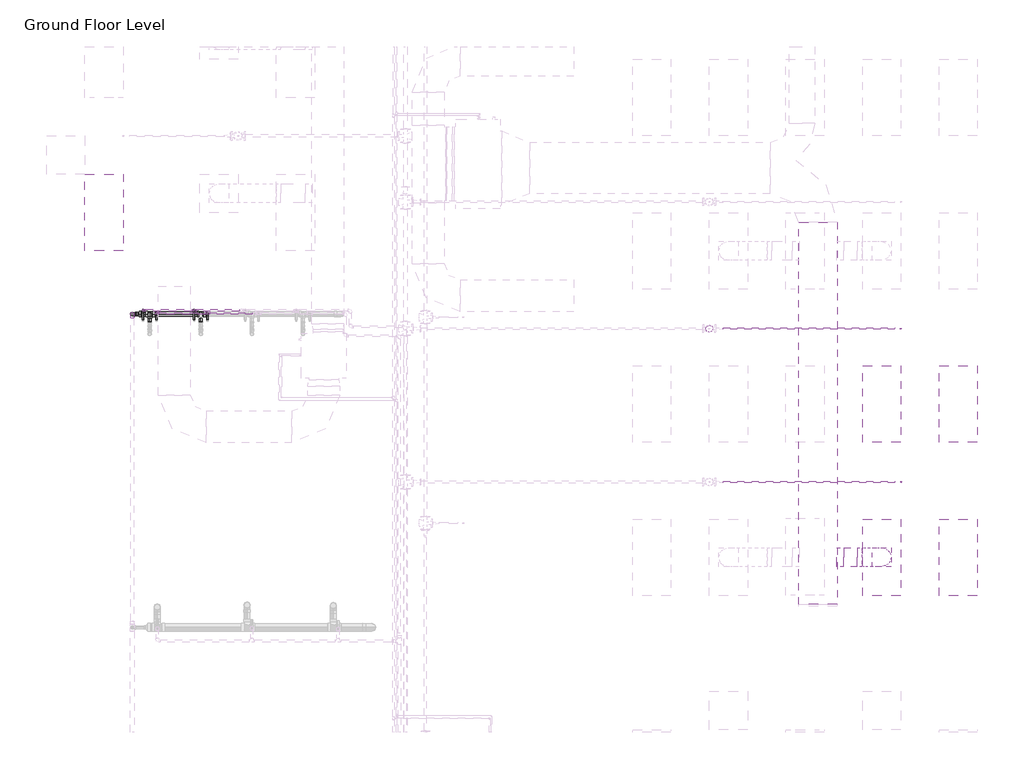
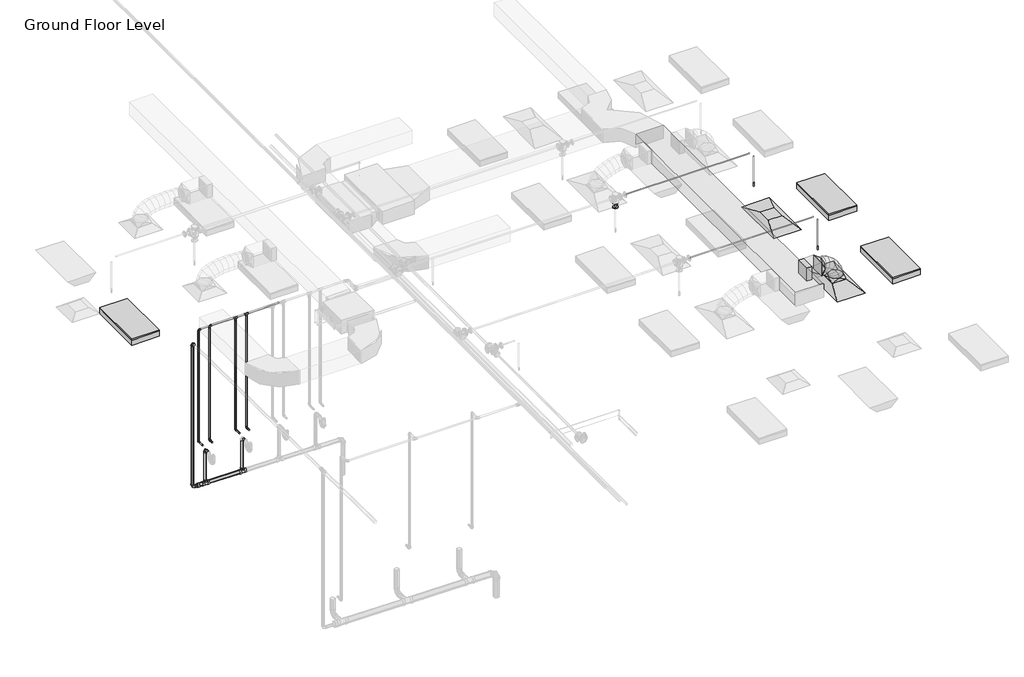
# One storey, part 23 of 74: 24 pipe segments, 15 pipe fittings, 3 duct fittings, 3 duct segments, 3 light fixtures, 2 air terminals, 2 fire suppression terminals.
"""IFC4 building model written with IfcOpenShell, lengths in millimetres."""

from ifc_helpers import new_model, si_unit, point, frame, frame_2d, origin, place, context, project, spatial, polyline, circle_curve, ellipse_curve, trimmed, segment, composite_curve, outline, extrude, transform, mapped, element, save
from ifc_brep_helpers import plane_surface, cylinder_surface, advanced_brep
from components import m_return_diffuser_1200x600_1200_x_600_face_300_x_300_d1983ef6, m_rectangular_takeoff_standard_cb0ccb98, m_rectangular_to_round_transition_angle_45_degree_641efff0, m_sprinkler_dry_pendent_hosted_15_mm_dry_pendent_9bda8e11, m_troffer_light_parabolic_rectangular1_0600x1200mm_4_lamp_86473d4a, m_bend_pvc_sch_40_dwv_standard_1e7bdcc1, m_bend_pvc_sch_40_dwv_standard_b3f66ba9, m_bend_pvc_sch_40_dwv_standard_8255d195, m_reducer_flanged_cs_class_150_standard_ccf252ad, m_reducer_pvc_sch_40_dwv_standard_391ccf0e, m_tee_reducing_sanitary_pvc_sch_40_dwv_standard_21d2848c, standard_b266ab3f, standard_636910a4

model = new_model("IFC4")

# Units and contexts
model_context = context("Model", 3, world=origin())
ifc_project = project(units=[si_unit("LENGTHUNIT", "METRE", prefix="MILLI")], contexts=[model_context])

# Site, building, storey
site = spatial("IfcSite", under=ifc_project)
building = spatial("IfcBuilding", under=site)
storey = spatial("IfcBuildingStorey", under=building, Name="Ground Floor Level", Elevation=900.0)

# Air terminals
placement = place(None, origin())
m_return_diffuser_1200x600_1200_x_600_face_300_x_300_shape = m_return_diffuser_1200x600_1200_x_600_face_300_x_300_d1983ef6(model_context)
element("IfcAirTerminal", 1, ObjectType="M_Return Diffuser 1200x600 : 1200 x 600 Face 300 x 300 Connection", at=placement, inside=storey, context=model_context, shape_type="MappedRepresentation", body=[
    mapped(m_return_diffuser_1200x600_1200_x_600_face_300_x_300_shape, transform((13143.0482736, -25264.7846466, 3650.0), x_axis=(0.0, 1.0, 0.0), y_axis=(-1.0, 0.0, 0.0), z_axis=(0.0, 0.0, 1.0))),
])
element("IfcAirTerminal", 2, ObjectType="M_Supply Diffuser 1200x600 : 1200 x 600 Face 300 x 300 Connection", at=placement, inside=storey, context=model_context, shape_type="MappedRepresentation", body=[
    mapped(m_return_diffuser_1200x600_1200_x_600_face_300_x_300_shape, transform((13143.0482736, -27664.7846466, 3650.0), x_axis=(0.0, 1.0, 0.0), y_axis=(-1.0, 0.0, 0.0), z_axis=(0.0, 0.0, 1.0))),
])

# Duct fittings
m_rectangular_takeoff_standard_shape = m_rectangular_takeoff_standard_cb0ccb98(model_context)
element("IfcDuctFitting", 3, ObjectType="M_Rectangular Takeoff : Standard", at=placement, inside=storey, context=model_context, shape_type="MappedRepresentation", body=[
    mapped(m_rectangular_takeoff_standard_shape, transform((12447.7826463, -27664.7846466, 4150.0), x_axis=(1.0, 0.0, 0.0), y_axis=(0.0, -1.0, 0.0), z_axis=(0.0, 0.0, -1.0))),
])
m_rectangular_to_round_transition_angle_45_degree_shape = m_rectangular_to_round_transition_angle_45_degree_641efff0(model_context)
element("IfcDuctFitting", 4, ObjectType="M_Rectangular to Round Transition - Angle : 45 Degree", at=placement, inside=storey, context=model_context, shape_type="MappedRepresentation", body=[
    mapped(m_rectangular_to_round_transition_angle_45_degree_shape, transform((13143.0482736, -27664.7846466, 3751.6), x_axis=(0.0, 0.0, 1.0), y_axis=(-1.0, 0.0, 0.0), z_axis=(0.0, -1.0, 0.0))),
])
element("IfcDuctFitting", 5, ObjectType="M_Rectangular to Round Transition - Angle : 45 Degree", at=placement, inside=storey, context=model_context, shape_type="MappedRepresentation", body=[
    mapped(m_rectangular_to_round_transition_angle_45_degree_shape, transform((12761.6123697, -27664.7846466, 4150.0), x_axis=(1.0, 0.0, 0.0), y_axis=(0.0, 1.0, 0.0), z_axis=(0.0, 0.0, 1.0))),
])

# Duct segments
element("IfcDuctSegment", 6, ObjectType="Flex - Round", at=placement, inside=storey, context=model_context, shape_type="AdvancedBrep", body=[
    advanced_brep(
    [(13293.0482736, -27664.7846466, 3826.6), (13143.0482736, -27814.7846466, 3826.6), (12993.0482736, -27664.7846466, 3826.6), (13143.0482736, -27514.7846466, 3826.6), (13293.0482736, -27664.7846466, 3876.0801767), (13143.0482736, -27814.7846466, 3855.2056793), (12993.0482736, -27664.7846466, 3834.331182), (13143.0482736, -27514.7846466, 3855.2056793), (13265.1827192, -27664.7846466, 3974.2594203), (13125.4356677, -27814.7846466, 3917.2605124), (12985.6886162, -27664.7846466, 3860.2616044), (13125.4356677, -27514.7846466, 3917.2605124), (13200.6413272, -27664.7846466, 4092.9659573), (13077.9530197, -27814.7846466, 4004.5920764), (12955.2647122, -27664.7846466, 3916.2181955), (13077.9530197, -27514.7846466, 4004.5920764), (13104.756489, -27664.7846466, 4195.7964668), (13008.6330843, -27814.7846466, 4078.9333843), (12912.5096796, -27664.7846466, 3962.0703018), (13008.6330843, -27514.7846466, 4078.9333843), (12990.1100986, -27664.7846466, 4267.0876603), (12925.5086161, -27814.7846466, 4130.6231281), (12860.9071335, -27664.7846466, 3994.1585959), (12925.5086161, -27514.7846466, 4130.6231281), (12893.3774283, -27664.7846466, 4300.0), (12868.5580444, -27814.7846466, 4150.0), (12843.7386605, -27664.7846466, 4000.0), (12868.5580444, -27514.7846466, 4150.0), (12836.6123697, -27664.7846466, 4300.0), (12836.6123697, -27814.7846466, 4150.0), (12836.6123697, -27664.7846466, 4000.0), (12836.6123697, -27514.7846466, 4150.0)],
    [
        (0, 1, circle_curve(frame((13143.0482736, -27664.7846466, 3826.6), z_axis=(0.0, 0.0, -1.0), x_axis=(1.0, 0.0, 0.0)), 150.0)),
        (1, 2, circle_curve(frame((13143.0482736, -27664.7846466, 3826.6), z_axis=(0.0, 0.0, -1.0), x_axis=(1.0, 0.0, 0.0)), 150.0)),
        (2, 3, circle_curve(frame((13143.0482736, -27664.7846466, 3826.6), z_axis=(0.0, 0.0, -1.0), x_axis=(1.0, 0.0, 0.0)), 150.0)),
        (3, 0, circle_curve(frame((13143.0482736, -27664.7846466, 3826.6), z_axis=(0.0, 0.0, -1.0), x_axis=(1.0, 0.0, 0.0)), 150.0)),
        (0, 4),
        (4, 5, ellipse_curve(frame((13143.0482736, -27664.7846466, 3855.2056793), z_axis=(0.13783502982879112, 0.0, -0.990455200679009), x_axis=(-0.990455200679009, 0.0, -0.1378350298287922)), 151.4455171, 150.0)),
        (5, 1),
        (5, 6, ellipse_curve(frame((13143.0482736, -27664.7846466, 3855.2056793), z_axis=(0.13783502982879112, 0.0, -0.990455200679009), x_axis=(-0.990455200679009, 0.0, -0.1378350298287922)), 151.4455171, 150.0)),
        (6, 2),
        (6, 7, ellipse_curve(frame((13143.0482736, -27664.7846466, 3855.2056793), z_axis=(0.13783502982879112, 0.0, -0.990455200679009), x_axis=(-0.990455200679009, 0.0, -0.1378350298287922)), 151.4455171, 150.0)),
        (7, 3),
        (7, 4, ellipse_curve(frame((13143.0482736, -27664.7846466, 3855.2056793), z_axis=(0.13783502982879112, 0.0, -0.990455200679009), x_axis=(-0.990455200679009, 0.0, -0.1378350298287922)), 151.4455171, 150.0)),
        (4, 8),
        (8, 9, ellipse_curve(frame((13125.4356677, -27664.7846466, 3917.2605124), z_axis=(0.37766579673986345, 0.0, -0.9259419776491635), x_axis=(-0.9259419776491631, 0.0, -0.3776657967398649)), 150.9241992, 150.0)),
        (9, 5),
        (9, 10, ellipse_curve(frame((13125.4356677, -27664.7846466, 3917.2605124), z_axis=(0.37766579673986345, 0.0, -0.9259419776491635), x_axis=(-0.9259419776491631, 0.0, -0.3776657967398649)), 150.9241992, 150.0)),
        (10, 6),
        (10, 11, ellipse_curve(frame((13125.4356677, -27664.7846466, 3917.2605124), z_axis=(0.37766579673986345, 0.0, -0.9259419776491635), x_axis=(-0.9259419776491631, 0.0, -0.3776657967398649)), 150.9241992, 150.0)),
        (11, 7),
        (11, 8, ellipse_curve(frame((13125.4356677, -27664.7846466, 3917.2605124), z_axis=(0.37766579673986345, 0.0, -0.9259419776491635), x_axis=(-0.9259419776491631, 0.0, -0.3776657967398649)), 150.9241992, 150.0)),
        (8, 12),
        (12, 13, ellipse_curve(frame((13077.9530197, -27664.7846466, 4004.5920764), z_axis=(0.584471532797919, 0.0, -0.8114142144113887), x_axis=(-0.8114142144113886, 0.0, -0.5844715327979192)), 151.2030542, 150.0)),
        (13, 9),
        (13, 14, ellipse_curve(frame((13077.9530197, -27664.7846466, 4004.5920764), z_axis=(0.584471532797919, 0.0, -0.8114142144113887), x_axis=(-0.8114142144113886, 0.0, -0.5844715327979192)), 151.2030542, 150.0)),
        (14, 10),
        (14, 15, ellipse_curve(frame((13077.9530197, -27664.7846466, 4004.5920764), z_axis=(0.584471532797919, 0.0, -0.8114142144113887), x_axis=(-0.8114142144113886, 0.0, -0.5844715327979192)), 151.2030542, 150.0)),
        (15, 11),
        (15, 12, ellipse_curve(frame((13077.9530197, -27664.7846466, 4004.5920764), z_axis=(0.584471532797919, 0.0, -0.8114142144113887), x_axis=(-0.8114142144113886, 0.0, -0.5844715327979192)), 151.2030542, 150.0)),
        (12, 16),
        (16, 17, ellipse_curve(frame((13008.6330843, -27664.7846466, 4078.9333843), z_axis=(0.7723088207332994, 0.0, -0.6352472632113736), x_axis=(-0.6352472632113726, 0.0, -0.7723088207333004)), 151.3165192, 150.0)),
        (17, 13),
        (17, 18, ellipse_curve(frame((13008.6330843, -27664.7846466, 4078.9333843), z_axis=(0.7723088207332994, 0.0, -0.6352472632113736), x_axis=(-0.6352472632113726, 0.0, -0.7723088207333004)), 151.3165192, 150.0)),
        (18, 14),
        (18, 19, ellipse_curve(frame((13008.6330843, -27664.7846466, 4078.9333843), z_axis=(0.7723088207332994, 0.0, -0.6352472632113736), x_axis=(-0.6352472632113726, 0.0, -0.7723088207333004)), 151.3165192, 150.0)),
        (19, 15),
        (19, 16, ellipse_curve(frame((13008.6330843, -27664.7846466, 4078.9333843), z_axis=(0.7723088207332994, 0.0, -0.6352472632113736), x_axis=(-0.6352472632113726, 0.0, -0.7723088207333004)), 151.3165192, 150.0)),
        (16, 20),
        (20, 21, ellipse_curve(frame((12925.5086161, -27664.7846466, 4130.6231281), z_axis=(0.9038393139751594, 0.0, -0.4278720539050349), x_axis=(-0.42787205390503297, 0.0, -0.9038393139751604)), 150.9831782, 150.0)),
        (21, 17),
        (21, 22, ellipse_curve(frame((12925.5086161, -27664.7846466, 4130.6231281), z_axis=(0.9038393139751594, 0.0, -0.4278720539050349), x_axis=(-0.42787205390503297, 0.0, -0.9038393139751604)), 150.9831782, 150.0)),
        (22, 18),
        (22, 23, ellipse_curve(frame((12925.5086161, -27664.7846466, 4130.6231281), z_axis=(0.9038393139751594, 0.0, -0.4278720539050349), x_axis=(-0.42787205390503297, 0.0, -0.9038393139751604)), 150.9831782, 150.0)),
        (23, 19),
        (23, 20, ellipse_curve(frame((12925.5086161, -27664.7846466, 4130.6231281), z_axis=(0.9038393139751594, 0.0, -0.4278720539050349), x_axis=(-0.42787205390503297, 0.0, -0.9038393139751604)), 150.9831782, 150.0)),
        (20, 24),
        (24, 25, ellipse_curve(frame((12868.5580444, -27664.7846466, 4150.0), z_axis=(0.9865858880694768, 0.0, -0.1632430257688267), x_axis=(-0.16324302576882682, 0.0, -0.9865858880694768)), 152.0394745, 150.0)),
        (25, 21),
        (25, 26, ellipse_curve(frame((12868.5580444, -27664.7846466, 4150.0), z_axis=(0.9865858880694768, 0.0, -0.1632430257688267), x_axis=(-0.16324302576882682, 0.0, -0.9865858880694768)), 152.0394745, 150.0)),
        (26, 22),
        (26, 27, ellipse_curve(frame((12868.5580444, -27664.7846466, 4150.0), z_axis=(0.9865858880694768, 0.0, -0.1632430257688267), x_axis=(-0.16324302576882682, 0.0, -0.9865858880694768)), 152.0394745, 150.0)),
        (27, 23),
        (27, 24, ellipse_curve(frame((12868.5580444, -27664.7846466, 4150.0), z_axis=(0.9865858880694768, 0.0, -0.1632430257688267), x_axis=(-0.16324302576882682, 0.0, -0.9865858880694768)), 152.0394745, 150.0)),
        (24, 28),
        (28, 29, circle_curve(frame((12836.6123697, -27664.7846466, 4150.0), z_axis=(1.0, 0.0, 0.0), x_axis=(0.0, 0.0, 1.0)), 150.0)),
        (29, 25),
        (29, 30, circle_curve(frame((12836.6123697, -27664.7846466, 4150.0), z_axis=(1.0, 0.0, 0.0), x_axis=(0.0, 0.0, 1.0)), 150.0)),
        (30, 26),
        (30, 31, circle_curve(frame((12836.6123697, -27664.7846466, 4150.0), z_axis=(1.0, 0.0, 0.0), x_axis=(0.0, 0.0, 1.0)), 150.0)),
        (31, 27),
        (31, 28, circle_curve(frame((12836.6123697, -27664.7846466, 4150.0), z_axis=(1.0, 0.0, 0.0), x_axis=(0.0, 0.0, 1.0)), 150.0)),
    ],
    [
        plane_surface(frame((13143.0482736, -27814.7846466, 3826.6), z_axis=(0.0, 0.0, -1.0), x_axis=(1.0, 0.0, 0.0))),
        cylinder_surface(frame((13143.0482736, -27664.7846466, 3826.6), z_axis=(0.0, 0.0, -1.0), x_axis=(1.0, 0.0, 0.0)), 150.0),
        cylinder_surface(frame((13143.0482736, -27664.7846466, 3855.2056793), z_axis=(0.27303884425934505, 0.0, -0.9620030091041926), x_axis=(0.9620030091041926, 0.0, 0.27303884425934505)), 150.0),
        cylinder_surface(frame((13125.4356677, -27664.7846466, 3917.2605124), z_axis=(0.4776674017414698, 0.0, -0.8785407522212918), x_axis=(0.8785407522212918, 0.0, 0.4776674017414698)), 150.0),
        cylinder_surface(frame((13077.9530197, -27664.7846466, 4004.5920764), z_axis=(0.6819749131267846, 0.0, -0.7313755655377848), x_axis=(0.7313755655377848, 0.0, 0.6819749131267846)), 150.0),
        cylinder_surface(frame((13008.6330843, -27664.7846466, 4078.9333843), z_axis=(0.8492038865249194, 0.0, -0.5280651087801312), x_axis=(0.5280651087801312, 0.0, 0.8492038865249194)), 150.0),
        cylinder_surface(frame((12925.5086161, -27664.7846466, 4130.6231281), z_axis=(0.9467034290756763, 0.0, -0.32210653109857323), x_axis=(0.32210653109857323, 0.0, 0.9467034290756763)), 150.0),
        cylinder_surface(frame((12868.5580444, -27664.7846466, 4150.0), z_axis=(1.0, 0.0, 0.0), x_axis=(0.0, 0.0, 1.0)), 150.0),
        plane_surface(frame((12836.6123697, -27664.7846466, 4000.0), z_axis=(-1.0, 0.0, 0.0), x_axis=(0.0, -1.0, 0.0))),
    ],
    [
        (0, [[1, 2, 3, 4]]),
        (1, [[-1, 5, 6, 7]]),
        (1, [[-2, -7, 8, 9]]),
        (1, [[-3, -9, 10, 11]]),
        (1, [[-4, -11, 12, -5]]),
        (2, [[-6, 13, 14, 15]]),
        (2, [[-8, -15, 16, 17]]),
        (2, [[-10, -17, 18, 19]]),
        (2, [[-12, -19, 20, -13]]),
        (3, [[-14, 21, 22, 23]]),
        (3, [[-16, -23, 24, 25]]),
        (3, [[-18, -25, 26, 27]]),
        (3, [[-20, -27, 28, -21]]),
        (4, [[-22, 29, 30, 31]]),
        (4, [[-24, -31, 32, 33]]),
        (4, [[-26, -33, 34, 35]]),
        (4, [[-28, -35, 36, -29]]),
        (5, [[-30, 37, 38, 39]]),
        (5, [[-32, -39, 40, 41]]),
        (5, [[-34, -41, 42, 43]]),
        (5, [[-36, -43, 44, -37]]),
        (6, [[-38, 45, 46, 47]]),
        (6, [[-40, -47, 48, 49]]),
        (6, [[-42, -49, 50, 51]]),
        (6, [[-44, -51, 52, -45]]),
        (7, [[-46, 53, 54, 55]]),
        (7, [[-48, -55, 56, 57]]),
        (7, [[-50, -57, 58, 59]]),
        (7, [[-52, -59, 60, -53]]),
        (8, [[-60, -58, -56, -54]]),
    ],
),
])
element("IfcDuctSegment", 7, ObjectType="Radius Elbows / Taps", at=placement, inside=storey, context=model_context, shape_type="SweptSolid", body=[
    extrude(outline(polyline([(12447.7826463, -28403.2846466), (11847.7826463, -28403.2846466), (11847.7826463, -22416.5689179), (12447.7826463, -22416.5689179), (12447.7826463, -28403.2846466)])), frame((0.0, 0.0, 4000.0002153), z_axis=(0.0, 0.0, 1.0), x_axis=(1.0, 0.0, 0.0)), (0.0, 0.0, 1.0), 300.0),
])
element("IfcDuctSegment", 8, ObjectType="Radius Elbows / Taps", at=placement, inside=storey, context=model_context, shape_type="SweptSolid", body=[
    extrude(outline(polyline([(12549.3826463, -27814.7846466), (12549.3826463, -27514.7846466), (12761.6123697, -27514.7846466), (12761.6123697, -27814.7846466), (12549.3826463, -27814.7846466)])), frame((0.0, 0.0, 4000.0), z_axis=(0.0, 0.0, 1.0), x_axis=(1.0, 0.0, 0.0)), (0.0, 0.0, 1.0), 300.0),
])

# Fire suppression terminals
m_sprinkler_dry_pendent_hosted_15_mm_dry_pendent_shape = m_sprinkler_dry_pendent_hosted_15_mm_dry_pendent_9bda8e11(model_context)
element("IfcFireSuppressionTerminal", 9, ObjectType="M_Sprinkler - Dry - Pendent - Hosted : 15 mm Dry Pendent", at=placement, inside=storey, context=model_context, shape_type="MappedRepresentation", body=[
    mapped(m_sprinkler_dry_pendent_hosted_15_mm_dry_pendent_shape, transform((13443.0482736, -24083.6779349, 3650.0), x_axis=(1.0, 0.0, 0.0), y_axis=(0.0, -1.0, 0.0), z_axis=(0.0, 0.0, -1.0))),
])
element("IfcFireSuppressionTerminal", 10, ObjectType="M_Sprinkler - Dry - Pendent - Hosted : 15 mm Dry Pendent", at=placement, inside=storey, context=model_context, shape_type="MappedRepresentation", body=[
    mapped(m_sprinkler_dry_pendent_hosted_15_mm_dry_pendent_shape, transform((13443.0482736, -26484.6295433, 3650.0), x_axis=(1.0, 0.0, 0.0), y_axis=(0.0, -1.0, 0.0), z_axis=(0.0, 0.0, -1.0))),
])

# Light fixtures
m_troffer_light_parabolic_rectangular1_0600x1200mm_4_lamp_shape = m_troffer_light_parabolic_rectangular1_0600x1200mm_4_lamp_86473d4a(model_context)
element("IfcLightFixture", 11, ObjectType="M_Troffer Light - Parabolic Rectangular1 : 0600x1200mm(4 Lamp) - 277V 2", at=placement, inside=storey, context=model_context, shape_type="MappedRepresentation", body=[
    mapped(m_troffer_light_parabolic_rectangular1_0600x1200mm_4_lamp_shape, transform((903.3013074, -22246.081145, 3650.0), x_axis=(0.0, 1.0, 0.0), y_axis=(-1.0, 0.0, 0.0), z_axis=(0.0, 0.0, 1.0))),
])
element("IfcLightFixture", 12, ObjectType="M_Troffer Light - Parabolic Rectangular1 : 0600x1200mm(4 Lamp) - 277V 2", at=placement, inside=storey, context=model_context, shape_type="MappedRepresentation", body=[
    mapped(m_troffer_light_parabolic_rectangular1_0600x1200mm_4_lamp_shape, transform((14283.5823415, -25246.081145, 3650.0), x_axis=(0.0, 1.0, 0.0), y_axis=(-1.0, 0.0, 0.0), z_axis=(0.0, 0.0, 1.0))),
])
element("IfcLightFixture", 13, ObjectType="M_Troffer Light - Parabolic Rectangular1 : 0600x1200mm(4 Lamp) - 277V 2", at=placement, inside=storey, context=model_context, shape_type="MappedRepresentation", body=[
    mapped(m_troffer_light_parabolic_rectangular1_0600x1200mm_4_lamp_shape, transform((14283.5823415, -27646.081145, 3650.0), x_axis=(0.0, 1.0, 0.0), y_axis=(-1.0, 0.0, 0.0), z_axis=(0.0, 0.0, 1.0))),
])

# Pipe fittings
m_bend_pvc_sch_40_dwv_standard_shape = m_bend_pvc_sch_40_dwv_standard_1e7bdcc1(model_context)
element("IfcPipeFitting", 14, ObjectType="M_Bend - PVC - Sch 40 - DWV : Standard", at=placement, inside=storey, context=model_context, shape_type="MappedRepresentation", body=[
    mapped(m_bend_pvc_sch_40_dwv_standard_shape, transform((1404.8669708, -23854.2948449, 739.8083289), x_axis=(-0.9999500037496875, 0.0, 0.009999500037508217), y_axis=(0.009999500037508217, 0.0, 0.9999500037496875), z_axis=(0.0, 1.0, 0.0))),
])
m_bend_pvc_sch_40_dwv_standard_2_shape = m_bend_pvc_sch_40_dwv_standard_b3f66ba9(model_context)
element("IfcPipeFitting", 15, ObjectType="M_Bend - PVC - Sch 40 - DWV : Standard", at=placement, inside=storey, context=model_context, shape_type="MappedRepresentation", body=[
    mapped(m_bend_pvc_sch_40_dwv_standard_2_shape, transform((1678.7498, -23854.294392, 1508.3087469), x_axis=(0.0, 0.9999578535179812, -0.009181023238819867), y_axis=(0.0, -0.009181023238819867, -0.9999578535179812), z_axis=(-1.0, 0.0, 0.0))),
])
m_bend_pvc_sch_40_dwv_standard_3_shape = m_bend_pvc_sch_40_dwv_standard_8255d195(model_context)
element("IfcPipeFitting", 16, ObjectType="M_Bend - PVC - Sch 40 - DWV : Standard", at=placement, inside=storey, context=model_context, shape_type="MappedRepresentation", body=[
    mapped(m_bend_pvc_sch_40_dwv_standard_3_shape, transform((1404.8829692, -23854.3136394, 4037.9287036), x_axis=(0.0, 0.0, 1.0), y_axis=(0.0, -1.0, 0.0), z_axis=(1.0, 0.0, 0.0))),
])
m_reducer_flanged_cs_class_150_standard_shape = m_reducer_flanged_cs_class_150_standard_ccf252ad(model_context)
element("IfcPipeFitting", 17, ObjectType="M_Reducer - Flanged - CS - Class 150 : Standard", at=placement, inside=storey, context=model_context, shape_type="MappedRepresentation", body=[
    mapped(m_reducer_flanged_cs_class_150_standard_shape, transform((10443.0482736, -24083.6779349, 4246.7914063), x_axis=(0.0, 0.0, -1.0), y_axis=(-1.0, 0.0, 0.0), z_axis=(0.0, 1.0, 0.0))),
])
m_reducer_pvc_sch_40_dwv_standard_shape = m_reducer_pvc_sch_40_dwv_standard_391ccf0e(model_context)
element("IfcPipeFitting", 18, ObjectType="M_Reducer - PVC - Sch 40 - DWV : Standard", at=placement, inside=storey, context=model_context, shape_type="MappedRepresentation", body=[
    mapped(m_reducer_pvc_sch_40_dwv_standard_shape, transform((1477.4242491, -23854.2948449, 739.0827561), x_axis=(0.9999500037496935, 0.0, -0.00999950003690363), y_axis=(0.0, 1.0, 0.0), z_axis=(0.00999950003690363, 0.0, 0.9999500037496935))),
])
m_tee_reducing_sanitary_pvc_sch_40_dwv_standard_shape = m_tee_reducing_sanitary_pvc_sch_40_dwv_standard_21d2848c(model_context)
element("IfcPipeFitting", 19, ObjectType="M_Tee Reducing Sanitary - PVC - Sch 40 - DWV : Standard", at=placement, inside=storey, context=model_context, shape_type="MappedRepresentation", body=[
    mapped(m_tee_reducing_sanitary_pvc_sch_40_dwv_standard_shape, transform((1678.7498, -23854.294392, 737.0632162), x_axis=(-0.9999500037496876, 0.0, 0.009999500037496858), y_axis=(-0.009999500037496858, 0.0, -0.9999500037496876), z_axis=(0.0, -1.0, 0.0))),
])
element("IfcPipeFitting", 20, ObjectType="M_Tee Reducing Sanitary - PVC - Sch 40 - DWV : Standard", at=placement, inside=storey, context=model_context, shape_type="MappedRepresentation", body=[
    mapped(m_tee_reducing_sanitary_pvc_sch_40_dwv_standard_shape, transform((2478.7498, -23854.2948449, 729.0632162), x_axis=(-0.9999500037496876, 0.0, 0.009999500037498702), y_axis=(-0.009999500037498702, 0.0, -0.9999500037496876), z_axis=(0.0, -1.0, 0.0))),
])
standard_shape = standard_b266ab3f(model_context)
element("IfcPipeFitting", 21, ObjectType="M_Elbow - CPVC - Sch 40 : Standard", at=placement, inside=storey, context=model_context, shape_type="MappedRepresentation", body=[
    mapped(standard_shape, transform((1783.0647206, -23844.7846466, 1690.0), x_axis=(0.0, 0.0, -1.0), y_axis=(0.0, -1.0, 0.0), z_axis=(-1.0, 0.0, 0.0))),
])
element("IfcPipeFitting", 22, ObjectType="M_Elbow - CPVC - Sch 40 : Standard", at=placement, inside=storey, context=model_context, shape_type="MappedRepresentation", body=[
    mapped(standard_shape, transform((2583.0647206, -23844.7846466, 1690.0), x_axis=(0.0, 0.0, -1.0), y_axis=(0.0, -1.0, 0.0), z_axis=(-1.0, 0.0, 0.0))),
])
element("IfcPipeFitting", 23, ObjectType="M_Elbow - CPVC - Sch 40 : Standard", at=placement, inside=storey, context=model_context, shape_type="MappedRepresentation", body=[
    mapped(standard_shape, transform((1783.0647206, -23844.7846466, 4300.0), x_axis=(-1.0, 0.0, 0.0), y_axis=(0.0, 0.0, -1.0), z_axis=(0.0, -1.0, 0.0))),
])
element("IfcPipeFitting", 24, ObjectType="M_Elbow - CPVC - Sch 40 : Standard", at=placement, inside=storey, context=model_context, shape_type="MappedRepresentation", body=[
    mapped(standard_shape, transform((1574.4348794, -23794.921633, 1690.0), x_axis=(0.0, 1.0, 0.0), y_axis=(0.0, 0.0, 1.0), z_axis=(1.0, 0.0, 0.0))),
])
element("IfcPipeFitting", 25, ObjectType="M_Elbow - CPVC - Sch 40 : Standard", at=placement, inside=storey, context=model_context, shape_type="MappedRepresentation", body=[
    mapped(standard_shape, transform((1574.4348794, -23794.921633, 4250.0), x_axis=(0.0, 0.0, 1.0), y_axis=(1.0, 0.0, 0.0), z_axis=(0.0, 1.0, 0.0))),
])
element("IfcPipeFitting", 26, ObjectType="M_Elbow - CPVC - Sch 40 : Standard", at=placement, inside=storey, context=model_context, shape_type="MappedRepresentation", body=[
    mapped(standard_shape, transform((2374.4348794, -23794.921633, 1690.0), x_axis=(0.0, 1.0, 0.0), y_axis=(0.0, 0.0, 1.0), z_axis=(1.0, 0.0, 0.0))),
])
standard_2_shape = standard_636910a4(model_context)
element("IfcPipeFitting", 27, ObjectType="M_Tee - CPVC - Sch 40 : Standard", at=placement, inside=storey, context=model_context, shape_type="MappedRepresentation", body=[
    mapped(standard_2_shape, transform((2583.0647206, -23844.7846466, 4300.0), x_axis=(1.0, 0.0, 0.0), y_axis=(0.0, 0.0, 1.0), z_axis=(0.0, -1.0, 0.0))),
])
element("IfcPipeFitting", 28, ObjectType="M_Tee - CPVC - Sch 40 : Standard", at=placement, inside=storey, context=model_context, shape_type="MappedRepresentation", body=[
    mapped(standard_2_shape, transform((2374.4348794, -23794.921633, 4250.0), x_axis=(-1.0, 0.0, 0.0), y_axis=(0.0, 0.0, 1.0), z_axis=(0.0, 1.0, 0.0))),
])

# Pipe segments
element("IfcPipeSegment", 29, ObjectType="CPVC", at=placement, inside=storey, context=model_context, shape_type="SweptSolid", body=[
    extrude(outline(composite_curve([segment(trimmed(circle_curve(frame_2d((1690.0, 2583.0647206)), 13.335), [point((1690.0, 2596.3997206))], [point((1703.335, 2583.0647206))], False, "CARTESIAN"), True, "CONTINUOUS"), segment(trimmed(circle_curve(frame_2d((1690.0, 2583.0647206)), 13.335), [point((1703.335, 2583.0647206))], [point((1690.0, 2569.7297206))], False, "CARTESIAN"), True, "CONTINUOUS"), segment(trimmed(circle_curve(frame_2d((1690.0, 2583.0647206)), 13.335), [point((1690.0, 2569.7297206))], [point((1676.665, 2583.0647206))], False, "CARTESIAN"), True, "CONTINUOUS"), segment(trimmed(circle_curve(frame_2d((1690.0, 2583.0647206)), 13.335), [point((1676.665, 2583.0647206))], [point((1690.0, 2596.3997206))], False, "CARTESIAN"), True, "CONTINUOUS")], self_intersect=False)), frame((0.0, -23944.7846466, 0.0), z_axis=(0.0, 1.0, 0.0), x_axis=(0.0, 0.0, 1.0)), (0.0, 0.0, 1.0), 64.67495),
])
element("IfcPipeSegment", 30, ObjectType="CPVC", at=placement, inside=storey, context=model_context, shape_type="SweptSolid", body=[
    extrude(outline(composite_curve([segment(trimmed(circle_curve(frame_2d((1690.0, 1783.0647206)), 13.335), [point((1690.0, 1796.3997206))], [point((1703.335, 1783.0647206))], False, "CARTESIAN"), True, "CONTINUOUS"), segment(trimmed(circle_curve(frame_2d((1690.0, 1783.0647206)), 13.335), [point((1703.335, 1783.0647206))], [point((1690.0, 1769.7297206))], False, "CARTESIAN"), True, "CONTINUOUS"), segment(trimmed(circle_curve(frame_2d((1690.0, 1783.0647206)), 13.335), [point((1690.0, 1769.7297206))], [point((1676.665, 1783.0647206))], False, "CARTESIAN"), True, "CONTINUOUS"), segment(trimmed(circle_curve(frame_2d((1690.0, 1783.0647206)), 13.335), [point((1676.665, 1783.0647206))], [point((1690.0, 1796.3997206))], False, "CARTESIAN"), True, "CONTINUOUS")], self_intersect=False)), frame((0.0, -23944.7846466, 0.0), z_axis=(0.0, 1.0, 0.0), x_axis=(0.0, 0.0, 1.0)), (0.0, 0.0, 1.0), 64.67495),
])
element("IfcPipeSegment", 31, ObjectType="CPVC", at=placement, inside=storey, context=model_context, shape_type="SweptSolid", body=[
    extrude(outline(composite_curve([segment(trimmed(circle_curve(frame_2d((1783.0647206, -23844.7846466)), 13.335), [point((1796.3997206, -23844.7846466))], [point((1783.0647206, -23858.1196466))], False, "CARTESIAN"), True, "CONTINUOUS"), segment(trimmed(circle_curve(frame_2d((1783.0647206, -23844.7846466)), 13.335), [point((1783.0647206, -23858.1196466))], [point((1769.7297206, -23844.7846466))], False, "CARTESIAN"), True, "CONTINUOUS"), segment(trimmed(circle_curve(frame_2d((1783.0647206, -23844.7846466)), 13.335), [point((1769.7297206, -23844.7846466))], [point((1783.0647206, -23831.4496466))], False, "CARTESIAN"), True, "CONTINUOUS"), segment(trimmed(circle_curve(frame_2d((1783.0647206, -23844.7846466)), 13.335), [point((1783.0647206, -23831.4496466))], [point((1796.3997206, -23844.7846466))], False, "CARTESIAN"), True, "CONTINUOUS")], self_intersect=False)), frame((0.0, 0.0, 1725.32505), z_axis=(0.0, 0.0, 1.0), x_axis=(1.0, 0.0, 0.0)), (0.0, 0.0, 1.0), 2539.3499),
])
element("IfcPipeSegment", 32, ObjectType="CPVC", at=placement, inside=storey, context=model_context, shape_type="SweptSolid", body=[
    extrude(outline(composite_curve([segment(trimmed(circle_curve(frame_2d((-23844.7846466, 4300.0)), 13.335), [point((-23831.4496466, 4300.0))], [point((-23844.7846466, 4286.665))], False, "CARTESIAN"), True, "CONTINUOUS"), segment(trimmed(circle_curve(frame_2d((-23844.7846466, 4300.0)), 13.335), [point((-23844.7846466, 4286.665))], [point((-23858.1196466, 4300.0))], False, "CARTESIAN"), True, "CONTINUOUS"), segment(trimmed(circle_curve(frame_2d((-23844.7846466, 4300.0)), 13.335), [point((-23858.1196466, 4300.0))], [point((-23844.7846466, 4313.335))], False, "CARTESIAN"), True, "CONTINUOUS"), segment(trimmed(circle_curve(frame_2d((-23844.7846466, 4300.0)), 13.335), [point((-23844.7846466, 4313.335))], [point((-23831.4496466, 4300.0))], False, "CARTESIAN"), True, "CONTINUOUS")], self_intersect=False)), frame((1818.3897706, 0.0, 0.0), z_axis=(1.0, 0.0, 0.0), x_axis=(0.0, 1.0, 0.0)), (0.0, 0.0, 1.0), 732.13755),
])
element("IfcPipeSegment", 33, ObjectType="CPVC", at=placement, inside=storey, context=model_context, shape_type="SweptSolid", body=[
    extrude(outline(composite_curve([segment(trimmed(circle_curve(frame_2d((2583.0647206, -23844.7846466)), 13.335), [point((2596.3997206, -23844.7846466))], [point((2583.0647206, -23858.1196466))], False, "CARTESIAN"), True, "CONTINUOUS"), segment(trimmed(circle_curve(frame_2d((2583.0647206, -23844.7846466)), 13.335), [point((2583.0647206, -23858.1196466))], [point((2569.7297206, -23844.7846466))], False, "CARTESIAN"), True, "CONTINUOUS"), segment(trimmed(circle_curve(frame_2d((2583.0647206, -23844.7846466)), 13.335), [point((2569.7297206, -23844.7846466))], [point((2583.0647206, -23831.4496466))], False, "CARTESIAN"), True, "CONTINUOUS"), segment(trimmed(circle_curve(frame_2d((2583.0647206, -23844.7846466)), 13.335), [point((2583.0647206, -23831.4496466))], [point((2596.3997206, -23844.7846466))], False, "CARTESIAN"), True, "CONTINUOUS")], self_intersect=False)), frame((0.0, 0.0, 1725.32505), z_axis=(0.0, 0.0, 1.0), x_axis=(1.0, 0.0, 0.0)), (0.0, 0.0, 1.0), 2542.13755),
])
element("IfcPipeSegment", 34, ObjectType="CPVC", at=placement, inside=storey, context=model_context, shape_type="SweptSolid", body=[
    extrude(outline(composite_curve([segment(trimmed(circle_curve(frame_2d((-23844.7846466, 4300.0)), 13.335), [point((-23831.4496466, 4300.0))], [point((-23844.7846466, 4286.665))], False, "CARTESIAN"), True, "CONTINUOUS"), segment(trimmed(circle_curve(frame_2d((-23844.7846466, 4300.0)), 13.335), [point((-23844.7846466, 4286.665))], [point((-23858.1196466, 4300.0))], False, "CARTESIAN"), True, "CONTINUOUS"), segment(trimmed(circle_curve(frame_2d((-23844.7846466, 4300.0)), 13.335), [point((-23858.1196466, 4300.0))], [point((-23844.7846466, 4313.335))], False, "CARTESIAN"), True, "CONTINUOUS"), segment(trimmed(circle_curve(frame_2d((-23844.7846466, 4300.0)), 13.335), [point((-23844.7846466, 4313.335))], [point((-23831.4496466, 4300.0))], False, "CARTESIAN"), True, "CONTINUOUS")], self_intersect=False)), frame((2615.6021206, 0.0, 0.0), z_axis=(1.0, 0.0, 0.0), x_axis=(0.0, 1.0, 0.0)), (0.0, 0.0, 1.0), 670.6124),
])
element("IfcPipeSegment", 35, ObjectType="CPVC", at=placement, inside=storey, context=model_context, shape_type="SweptSolid", body=[
    extrude(outline(composite_curve([segment(trimmed(circle_curve(frame_2d((1690.0, 1574.4348794)), 13.335), [point((1690.0, 1587.7698794))], [point((1703.335, 1574.4348794))], False, "CARTESIAN"), True, "CONTINUOUS"), segment(trimmed(circle_curve(frame_2d((1690.0, 1574.4348794)), 13.335), [point((1703.335, 1574.4348794))], [point((1690.0, 1561.0998794))], False, "CARTESIAN"), True, "CONTINUOUS"), segment(trimmed(circle_curve(frame_2d((1690.0, 1574.4348794)), 13.335), [point((1690.0, 1561.0998794))], [point((1676.665, 1574.4348794))], False, "CARTESIAN"), True, "CONTINUOUS"), segment(trimmed(circle_curve(frame_2d((1690.0, 1574.4348794)), 13.335), [point((1676.665, 1574.4348794))], [point((1690.0, 1587.7698794))], False, "CARTESIAN"), True, "CONTINUOUS")], self_intersect=False)), frame((0.0, -23944.7846466, 0.0), z_axis=(0.0, 1.0, 0.0), x_axis=(0.0, 0.0, 1.0)), (0.0, 0.0, 1.0), 114.5379636),
])
element("IfcPipeSegment", 36, ObjectType="CPVC", at=placement, inside=storey, context=model_context, shape_type="SweptSolid", body=[
    extrude(outline(composite_curve([segment(trimmed(circle_curve(frame_2d((1574.4348794, -23794.921633)), 13.335), [point((1561.0998794, -23794.921633))], [point((1574.4348794, -23781.586633))], False, "CARTESIAN"), True, "CONTINUOUS"), segment(trimmed(circle_curve(frame_2d((1574.4348794, -23794.921633)), 13.335), [point((1574.4348794, -23781.586633))], [point((1587.7698794, -23794.921633))], False, "CARTESIAN"), True, "CONTINUOUS"), segment(trimmed(circle_curve(frame_2d((1574.4348794, -23794.921633)), 13.335), [point((1587.7698794, -23794.921633))], [point((1574.4348794, -23808.256633))], False, "CARTESIAN"), True, "CONTINUOUS"), segment(trimmed(circle_curve(frame_2d((1574.4348794, -23794.921633)), 13.335), [point((1574.4348794, -23808.256633))], [point((1561.0998794, -23794.921633))], False, "CARTESIAN"), True, "CONTINUOUS")], self_intersect=False)), frame((0.0, 0.0, 1725.32505), z_axis=(0.0, 0.0, 1.0), x_axis=(1.0, 0.0, 0.0)), (0.0, 0.0, 1.0), 2489.3499),
])
element("IfcPipeSegment", 37, ObjectType="CPVC", at=placement, inside=storey, context=model_context, shape_type="SweptSolid", body=[
    extrude(outline(composite_curve([segment(trimmed(circle_curve(frame_2d((1690.0, 2374.4348794)), 13.335), [point((1690.0, 2387.7698794))], [point((1703.335, 2374.4348794))], False, "CARTESIAN"), True, "CONTINUOUS"), segment(trimmed(circle_curve(frame_2d((1690.0, 2374.4348794)), 13.335), [point((1703.335, 2374.4348794))], [point((1690.0, 2361.0998794))], False, "CARTESIAN"), True, "CONTINUOUS"), segment(trimmed(circle_curve(frame_2d((1690.0, 2374.4348794)), 13.335), [point((1690.0, 2361.0998794))], [point((1676.665, 2374.4348794))], False, "CARTESIAN"), True, "CONTINUOUS"), segment(trimmed(circle_curve(frame_2d((1690.0, 2374.4348794)), 13.335), [point((1676.665, 2374.4348794))], [point((1690.0, 2387.7698794))], False, "CARTESIAN"), True, "CONTINUOUS")], self_intersect=False)), frame((0.0, -23944.7846466, 0.0), z_axis=(0.0, 1.0, 0.0), x_axis=(0.0, 0.0, 1.0)), (0.0, 0.0, 1.0), 114.5379636),
])
element("IfcPipeSegment", 38, ObjectType="CPVC", at=placement, inside=storey, context=model_context, shape_type="SweptSolid", body=[
    extrude(outline(composite_curve([segment(trimmed(circle_curve(frame_2d((2374.4348794, -23794.921633)), 13.335), [point((2361.0998794, -23794.921633))], [point((2374.4348794, -23781.586633))], False, "CARTESIAN"), True, "CONTINUOUS"), segment(trimmed(circle_curve(frame_2d((2374.4348794, -23794.921633)), 13.335), [point((2374.4348794, -23781.586633))], [point((2387.7698794, -23794.921633))], False, "CARTESIAN"), True, "CONTINUOUS"), segment(trimmed(circle_curve(frame_2d((2374.4348794, -23794.921633)), 13.335), [point((2387.7698794, -23794.921633))], [point((2374.4348794, -23808.256633))], False, "CARTESIAN"), True, "CONTINUOUS"), segment(trimmed(circle_curve(frame_2d((2374.4348794, -23794.921633)), 13.335), [point((2374.4348794, -23808.256633))], [point((2361.0998794, -23794.921633))], False, "CARTESIAN"), True, "CONTINUOUS")], self_intersect=False)), frame((0.0, 0.0, 1725.32505), z_axis=(0.0, 0.0, 1.0), x_axis=(1.0, 0.0, 0.0)), (0.0, 0.0, 1.0), 2492.13755),
])
element("IfcPipeSegment", 39, ObjectType="CPVC", at=placement, inside=storey, context=model_context, shape_type="SweptSolid", body=[
    extrude(outline(composite_curve([segment(trimmed(circle_curve(frame_2d((-23794.921633, 4250.0)), 13.335), [point((-23808.256633, 4250.0))], [point((-23794.921633, 4263.335))], False, "CARTESIAN"), True, "CONTINUOUS"), segment(trimmed(circle_curve(frame_2d((-23794.921633, 4250.0)), 13.335), [point((-23794.921633, 4263.335))], [point((-23781.586633, 4250.0))], False, "CARTESIAN"), True, "CONTINUOUS"), segment(trimmed(circle_curve(frame_2d((-23794.921633, 4250.0)), 13.335), [point((-23781.586633, 4250.0))], [point((-23794.921633, 4236.665))], False, "CARTESIAN"), True, "CONTINUOUS"), segment(trimmed(circle_curve(frame_2d((-23794.921633, 4250.0)), 13.335), [point((-23794.921633, 4236.665))], [point((-23808.256633, 4250.0))], False, "CARTESIAN"), True, "CONTINUOUS")], self_intersect=False)), frame((1609.7599294, 0.0, 0.0), z_axis=(1.0, 0.0, 0.0), x_axis=(0.0, 1.0, 0.0)), (0.0, 0.0, 1.0), 732.13755),
])
element("IfcPipeSegment", 40, ObjectType="CPVC", at=placement, inside=storey, context=model_context, shape_type="SweptSolid", body=[
    extrude(outline(composite_curve([segment(trimmed(circle_curve(frame_2d((-23794.921633, 4250.0)), 13.335), [point((-23808.256633, 4250.0))], [point((-23794.921633, 4263.335))], False, "CARTESIAN"), True, "CONTINUOUS"), segment(trimmed(circle_curve(frame_2d((-23794.921633, 4250.0)), 13.335), [point((-23794.921633, 4263.335))], [point((-23781.586633, 4250.0))], False, "CARTESIAN"), True, "CONTINUOUS"), segment(trimmed(circle_curve(frame_2d((-23794.921633, 4250.0)), 13.335), [point((-23781.586633, 4250.0))], [point((-23794.921633, 4236.665))], False, "CARTESIAN"), True, "CONTINUOUS"), segment(trimmed(circle_curve(frame_2d((-23794.921633, 4250.0)), 13.335), [point((-23794.921633, 4236.665))], [point((-23808.256633, 4250.0))], False, "CARTESIAN"), True, "CONTINUOUS")], self_intersect=False)), frame((2406.9722794, 0.0, 0.0), z_axis=(1.0, 0.0, 0.0), x_axis=(0.0, 1.0, 0.0)), (0.0, 0.0, 1.0), 670.6124),
])
element("IfcPipeSegment", 41, ObjectType="PVC - DWV", at=placement, inside=storey, context=model_context, shape_type="SweptSolid", body=[
    extrude(outline(composite_curve([segment(trimmed(circle_curve(frame_2d((0.0, -24.13)), 24.13), [point((24.13, -24.13))], [point((0.0, -48.26))], False, "CARTESIAN"), True, "CONTINUOUS"), segment(trimmed(circle_curve(frame_2d((0.0, -24.13)), 24.13), [point((0.0, -48.26))], [point((-24.13, -24.13))], False, "CARTESIAN"), True, "CONTINUOUS"), segment(trimmed(circle_curve(frame_2d((0.0, -24.13)), 24.13), [point((-24.13, -24.13))], [point((0.0, 0.0))], False, "CARTESIAN"), True, "CONTINUOUS"), segment(trimmed(circle_curve(frame_2d((0.0, -24.13)), 24.13), [point((0.0, 0.0))], [point((24.13, -24.13))], False, "CARTESIAN"), True, "CONTINUOUS")], self_intersect=False)), frame((1678.7498, -23915.9700451, 1533.0060334), z_axis=(0.0, -0.9999578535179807, 0.009181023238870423), x_axis=(1.0, 0.0, 0.0)), (0.0, 0.0, 1.0), 60.2666161),
])
element("IfcPipeSegment", 42, ObjectType="PVC - DWV", at=placement, inside=storey, context=model_context, shape_type="SweptSolid", body=[
    extrude(outline(composite_curve([segment(trimmed(circle_curve(frame_2d((1678.7498, -23854.294392)), 24.13), [point((1654.6198, -23854.294392))], [point((1678.7498, -23830.164392))], False, "CARTESIAN"), True, "CONTINUOUS"), segment(trimmed(circle_curve(frame_2d((1678.7498, -23854.294392)), 24.13), [point((1678.7498, -23830.164392))], [point((1702.8798, -23854.294392))], False, "CARTESIAN"), True, "CONTINUOUS"), segment(trimmed(circle_curve(frame_2d((1678.7498, -23854.294392)), 24.13), [point((1702.8798, -23854.294392))], [point((1678.7498, -23878.424392))], False, "CARTESIAN"), True, "CONTINUOUS"), segment(trimmed(circle_curve(frame_2d((1678.7498, -23854.294392)), 24.13), [point((1678.7498, -23878.424392))], [point((1654.6198, -23854.294392))], False, "CARTESIAN"), True, "CONTINUOUS")], self_intersect=False)), frame((0.0, 0.0, 817.9106725), z_axis=(0.0, 0.0, 1.0), x_axis=(1.0, 0.0, 0.0)), (0.0, 0.0, 1.0), 628.4982744),
])
element("IfcPipeSegment", 43, ObjectType="PVC - DWV", at=placement, inside=storey, context=model_context, shape_type="SweptSolid", body=[
    extrude(outline(composite_curve([segment(trimmed(circle_curve(frame_2d((0.0, -24.13)), 24.13), [point((24.13, -24.13))], [point((0.0, -48.26))], False, "CARTESIAN"), True, "CONTINUOUS"), segment(trimmed(circle_curve(frame_2d((0.0, -24.13)), 24.13), [point((0.0, -48.26))], [point((-24.13, -24.13))], False, "CARTESIAN"), True, "CONTINUOUS"), segment(trimmed(circle_curve(frame_2d((0.0, -24.13)), 24.13), [point((-24.13, -24.13))], [point((0.0, 0.0))], False, "CARTESIAN"), True, "CONTINUOUS"), segment(trimmed(circle_curve(frame_2d((0.0, -24.13)), 24.13), [point((0.0, 0.0))], [point((24.13, -24.13))], False, "CARTESIAN"), True, "CONTINUOUS")], self_intersect=False)), frame((2478.7498, -23915.9502622, 1533.0071805), z_axis=(0.0, -0.9999500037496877, 0.009999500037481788), x_axis=(1.0, 0.0, 0.0)), (0.0, 0.0, 1.0), 60.2666156),
])
element("IfcPipeSegment", 44, ObjectType="PVC - DWV", at=placement, inside=storey, context=model_context, shape_type="SweptSolid", body=[
    extrude(outline(composite_curve([segment(trimmed(circle_curve(frame_2d((2478.7498, -23854.2948449)), 24.13), [point((2454.6198, -23854.2948449))], [point((2478.7498, -23830.1648449))], False, "CARTESIAN"), True, "CONTINUOUS"), segment(trimmed(circle_curve(frame_2d((2478.7498, -23854.2948449)), 24.13), [point((2478.7498, -23830.1648449))], [point((2502.8798, -23854.2948449))], False, "CARTESIAN"), True, "CONTINUOUS"), segment(trimmed(circle_curve(frame_2d((2478.7498, -23854.2948449)), 24.13), [point((2502.8798, -23854.2948449))], [point((2478.7498, -23878.4248449))], False, "CARTESIAN"), True, "CONTINUOUS"), segment(trimmed(circle_curve(frame_2d((2478.7498, -23854.2948449)), 24.13), [point((2478.7498, -23878.4248449))], [point((2454.6198, -23854.2948449))], False, "CARTESIAN"), True, "CONTINUOUS")], self_intersect=False)), frame((0.0, 0.0, 809.9106725), z_axis=(0.0, 0.0, 1.0), x_axis=(1.0, 0.0, 0.0)), (0.0, 0.0, 1.0), 636.4489474),
])
element("IfcPipeSegment", 45, ObjectType="PVC - DWV", at=placement, inside=storey, context=model_context, shape_type="SweptSolid", body=[
    extrude(outline(composite_curve([segment(trimmed(circle_curve(frame_2d((-1e-07, -36.5125)), 36.5125), [point((-0.0025002, -73.0249999))], [point((-36.5125, -36.5099999))], False, "CARTESIAN"), True, "CONTINUOUS"), segment(trimmed(circle_curve(frame_2d((-1e-07, -36.5125)), 36.5125), [point((-36.5125, -36.5099999))], [point((0.0025, -1e-07))], False, "CARTESIAN"), True, "CONTINUOUS"), segment(trimmed(circle_curve(frame_2d((-1e-07, -36.5125)), 36.5125), [point((0.0025, -1e-07))], [point((36.5124998, -36.5150001))], False, "CARTESIAN"), True, "CONTINUOUS"), segment(trimmed(circle_curve(frame_2d((-1e-07, -36.5125)), 36.5125), [point((36.5124998, -36.5150001))], [point((-0.0025002, -73.0249999))], False, "CARTESIAN"), True, "CONTINUOUS")], self_intersect=False)), frame((2419.2670308, -23817.782345, 729.655544), z_axis=(-0.9999500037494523, 6.846526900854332e-07, 0.009999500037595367), x_axis=(0.009999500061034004, 6.846526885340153e-05, 0.9999500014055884)), (0.0, 0.0, 1.0), 661.4911369),
])
element("IfcPipeSegment", 46, ObjectType="PVC - DWV", at=placement, inside=storey, context=model_context, shape_type="SweptSolid", body=[
    extrude(outline(composite_curve([segment(trimmed(circle_curve(frame_2d((0.0, 36.5125001)), 36.5125), [point((-0.022041, 73.0249934))], [point((36.5124934, 36.534541))], False, "CARTESIAN"), True, "CONTINUOUS"), segment(trimmed(circle_curve(frame_2d((0.0, 36.5125001)), 36.5125), [point((36.5124934, 36.534541))], [point((0.022041, 6.7e-06))], False, "CARTESIAN"), True, "CONTINUOUS"), segment(trimmed(circle_curve(frame_2d((0.0, 36.5125001)), 36.5125), [point((0.022041, 6.7e-06))], [point((-36.5124933, 36.490459))], False, "CARTESIAN"), True, "CONTINUOUS"), segment(trimmed(circle_curve(frame_2d((0.0, 36.5125001)), 36.5125), [point((-36.5124933, 36.490459))], [point((-0.022041, 73.0249934))], False, "CARTESIAN"), True, "CONTINUOUS")], self_intersect=False)), frame((1619.2670308, -23890.8068854, 737.636004), z_axis=(-0.9999491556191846, -6.086939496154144e-06, 0.01008395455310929), x_axis=(0.010083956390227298, -0.0006035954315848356, 0.9999489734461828)), (0.0, 0.0, 1.0), 74.403843),
])
element("IfcPipeSegment", 47, ObjectType="PVC - DWV", at=placement, inside=storey, context=model_context, shape_type="SweptSolid", body=[
    extrude(outline(composite_curve([segment(trimmed(circle_curve(frame_2d((0.0, 24.13)), 24.13), [point((0.0, 48.26))], [point((24.13, 24.13))], False, "CARTESIAN"), True, "CONTINUOUS"), segment(trimmed(circle_curve(frame_2d((0.0, 24.13)), 24.13), [point((24.13, 24.13))], [point((0.0, 0.0))], False, "CARTESIAN"), True, "CONTINUOUS"), segment(trimmed(circle_curve(frame_2d((0.0, 24.13)), 24.13), [point((0.0, 0.0))], [point((-24.13, 24.13))], False, "CARTESIAN"), True, "CONTINUOUS"), segment(trimmed(circle_curve(frame_2d((0.0, 24.13)), 24.13), [point((-24.13, 24.13))], [point((0.0, 48.26))], False, "CARTESIAN"), True, "CONTINUOUS")], self_intersect=False)), frame((1477.4242491, -23878.4248449, 739.0827561), z_axis=(-0.9999500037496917, 0.0, 0.009999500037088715), x_axis=(0.009999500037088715, 0.0, 0.9999500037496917)), (0.0, 0.0, 1.0), 10.6611061),
])
element("IfcPipeSegment", 48, ObjectType="PVC - DWV", at=placement, inside=storey, context=model_context, shape_type="SweptSolid", body=[
    extrude(outline(composite_curve([segment(trimmed(circle_curve(frame_2d((0.0, 24.13)), 24.13), [point((-24.13, 24.13))], [point((0.0, 48.26))], False, "CARTESIAN"), True, "CONTINUOUS"), segment(trimmed(circle_curve(frame_2d((0.0, 24.13)), 24.13), [point((0.0, 48.26))], [point((24.13, 24.13))], False, "CARTESIAN"), True, "CONTINUOUS"), segment(trimmed(circle_curve(frame_2d((0.0, 24.13)), 24.13), [point((24.13, 24.13))], [point((0.0, 0.0))], False, "CARTESIAN"), True, "CONTINUOUS"), segment(trimmed(circle_curve(frame_2d((0.0, 24.13)), 24.13), [point((0.0, 0.0))], [point((-24.13, 24.13))], False, "CARTESIAN"), True, "CONTINUOUS")], self_intersect=False)), frame((1404.8669708, -23878.4248449, 801.707986), z_axis=(5.03994386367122e-06, -5.920779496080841e-06, 0.9999999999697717), x_axis=(0.9999999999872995, 2.984279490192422e-11, -5.039943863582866e-06)), (0.0, 0.0, 1.0), 3174.3207748),
])
element("IfcPipeSegment", 49, ObjectType="Steel flanged", at=placement, inside=storey, context=model_context, shape_type="SweptSolid", body=[
    extrude(outline(composite_curve([segment(trimmed(circle_curve(frame_2d((13443.0482736, -26484.6295433)), 10.668), [point((13432.3802736, -26484.6295433))], [point((13443.0482736, -26473.9615433))], False, "CARTESIAN"), True, "CONTINUOUS"), segment(trimmed(circle_curve(frame_2d((13443.0482736, -26484.6295433)), 10.668), [point((13443.0482736, -26473.9615433))], [point((13453.7162736, -26484.6295433))], False, "CARTESIAN"), True, "CONTINUOUS"), segment(trimmed(circle_curve(frame_2d((13443.0482736, -26484.6295433)), 10.668), [point((13453.7162736, -26484.6295433))], [point((13443.0482736, -26495.2975433))], False, "CARTESIAN"), True, "CONTINUOUS"), segment(trimmed(circle_curve(frame_2d((13443.0482736, -26484.6295433)), 10.668), [point((13443.0482736, -26495.2975433))], [point((13432.3802736, -26484.6295433))], False, "CARTESIAN"), True, "CONTINUOUS")], self_intersect=False)), frame((0.0, 0.0, 3650.0), z_axis=(0.0, 0.0, 1.0), x_axis=(1.0, 0.0, 0.0)), (0.0, 0.0, 1.0), 604.4914062),
])
element("IfcPipeSegment", 50, ObjectType="Steel flanged", at=placement, inside=storey, context=model_context, shape_type="SweptSolid", body=[
    extrude(outline(composite_curve([segment(trimmed(circle_curve(frame_2d((13443.0482736, -24083.6779349)), 10.668), [point((13432.3802736, -24083.6779349))], [point((13443.0482736, -24073.0099349))], False, "CARTESIAN"), True, "CONTINUOUS"), segment(trimmed(circle_curve(frame_2d((13443.0482736, -24083.6779349)), 10.668), [point((13443.0482736, -24073.0099349))], [point((13453.7162736, -24083.6779349))], False, "CARTESIAN"), True, "CONTINUOUS"), segment(trimmed(circle_curve(frame_2d((13443.0482736, -24083.6779349)), 10.668), [point((13453.7162736, -24083.6779349))], [point((13443.0482736, -24094.3459349))], False, "CARTESIAN"), True, "CONTINUOUS"), segment(trimmed(circle_curve(frame_2d((13443.0482736, -24083.6779349)), 10.668), [point((13443.0482736, -24094.3459349))], [point((13432.3802736, -24083.6779349))], False, "CARTESIAN"), True, "CONTINUOUS")], self_intersect=False)), frame((0.0, 0.0, 3650.0), z_axis=(0.0, 0.0, 1.0), x_axis=(1.0, 0.0, 0.0)), (0.0, 0.0, 1.0), 604.4914062),
])
element("IfcPipeSegment", 51, ObjectType="Steel flanged", at=placement, inside=storey, context=model_context, shape_type="SweptSolid", body=[
    extrude(outline(composite_curve([segment(trimmed(circle_curve(frame_2d((-26484.6295433, 4347.5)), 10.668), [point((-26473.9615433, 4347.5))], [point((-26484.6295433, 4336.832))], False, "CARTESIAN"), True, "CONTINUOUS"), segment(trimmed(circle_curve(frame_2d((-26484.6295433, 4347.5)), 10.668), [point((-26484.6295433, 4336.832))], [point((-26495.2975433, 4347.5))], False, "CARTESIAN"), True, "CONTINUOUS"), segment(trimmed(circle_curve(frame_2d((-26484.6295433, 4347.5)), 10.668), [point((-26495.2975433, 4347.5))], [point((-26484.6295433, 4358.168))], False, "CARTESIAN"), True, "CONTINUOUS"), segment(trimmed(circle_curve(frame_2d((-26484.6295433, 4347.5)), 10.668), [point((-26484.6295433, 4358.168))], [point((-26473.9615433, 4347.5))], False, "CARTESIAN"), True, "CONTINUOUS")], self_intersect=False)), frame((10657.7568674, 0.0, 0.0), z_axis=(1.0, 0.0, 0.0), x_axis=(0.0, 1.0, 0.0)), (0.0, 0.0, 1.0), 2692.2828125),
])
element("IfcPipeSegment", 52, ObjectType="Steel flanged", at=placement, inside=storey, context=model_context, shape_type="SweptSolid", body=[
    extrude(outline(composite_curve([segment(trimmed(circle_curve(frame_2d((-24083.6779349, 4347.5)), 10.668), [point((-24073.0099349, 4347.5))], [point((-24083.6779349, 4336.832))], False, "CARTESIAN"), True, "CONTINUOUS"), segment(trimmed(circle_curve(frame_2d((-24083.6779349, 4347.5)), 10.668), [point((-24083.6779349, 4336.832))], [point((-24094.3459349, 4347.5))], False, "CARTESIAN"), True, "CONTINUOUS"), segment(trimmed(circle_curve(frame_2d((-24083.6779349, 4347.5)), 10.668), [point((-24094.3459349, 4347.5))], [point((-24083.6779349, 4358.168))], False, "CARTESIAN"), True, "CONTINUOUS"), segment(trimmed(circle_curve(frame_2d((-24083.6779349, 4347.5)), 10.668), [point((-24083.6779349, 4358.168))], [point((-24073.0099349, 4347.5))], False, "CARTESIAN"), True, "CONTINUOUS")], self_intersect=False)), frame((10657.7568674, 0.0, 0.0), z_axis=(1.0, 0.0, 0.0), x_axis=(0.0, 1.0, 0.0)), (0.0, 0.0, 1.0), 2692.2828125),
])

save(model, "model.ifc")
